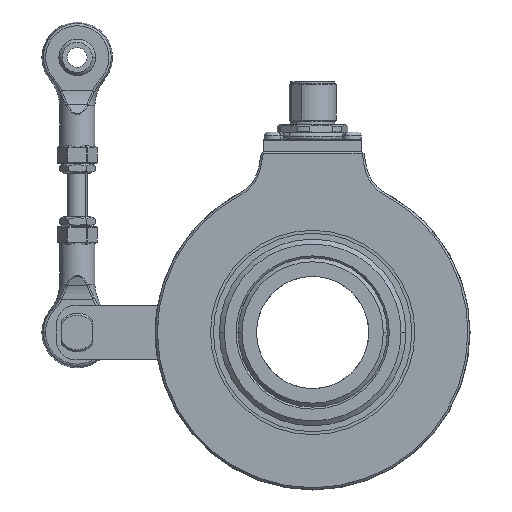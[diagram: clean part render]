
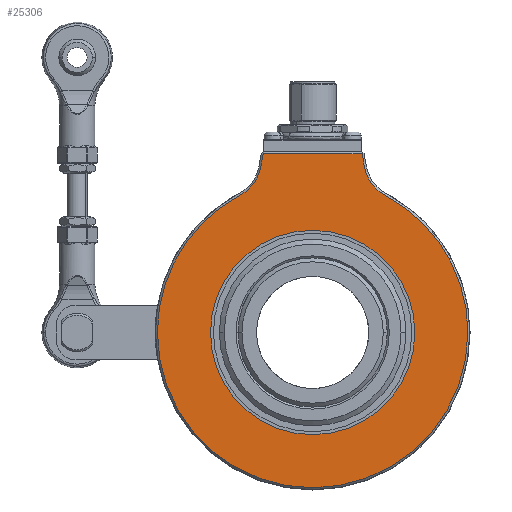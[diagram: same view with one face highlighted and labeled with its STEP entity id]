
A CAD part, left-side view. The second image highlights one B-rep face of the part: STEP entity #25306.
In plain terms, the highlighted planar face has unit normal (-1, 0, 0).
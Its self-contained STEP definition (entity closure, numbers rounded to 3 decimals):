
#452 = CARTESIAN_POINT ( 'NONE',  ( -26., 40., 0. ) ) ;
#1194 = EDGE_CURVE ( 'NONE', #26496, #15883, #10256, .T. ) ;
#1437 = DIRECTION ( 'NONE',  ( -1., 0., 0. ) ) ;
#1609 = CARTESIAN_POINT ( 'NONE',  ( -26., 0., 0. ) ) ;
#1617 = EDGE_CURVE ( 'NONE', #16590, #26496, #17439, .T. ) ;
#1793 = AXIS2_PLACEMENT_3D ( 'NONE', #1609, #18383, #16371 ) ;
#1962 = CARTESIAN_POINT ( 'NONE',  ( -26., 0., 0. ) ) ;
#2024 = CARTESIAN_POINT ( 'NONE',  ( -26., 18.551, 34.873 ) ) ;
#2308 = FACE_BOUND ( 'NONE', #27307, .T. ) ;
#2343 = VECTOR ( 'NONE', #23150, 1000. ) ;
#2352 = VECTOR ( 'NONE', #25866, 1000. ) ;
#2981 = CIRCLE ( 'NONE', #9774, 39.5 ) ;
#3370 = DIRECTION ( 'NONE',  ( -1., 0., 0. ) ) ;
#3516 = CIRCLE ( 'NONE', #23943, 10.5 ) ;
#3989 = AXIS2_PLACEMENT_3D ( 'NONE', #21849, #4639, #11161 ) ;
#4004 = CIRCLE ( 'NONE', #15317, 39.5 ) ;
#4298 = DIRECTION ( 'NONE',  ( 0., -1., 0. ) ) ;
#4573 = FACE_OUTER_BOUND ( 'NONE', #21080, .T. ) ;
#4639 = DIRECTION ( 'NONE',  ( 1., 0., 0. ) ) ;
#4712 = DIRECTION ( 'NONE',  ( 0., -1., 0. ) ) ;
#4755 = EDGE_CURVE ( 'NONE', #22082, #8321, #4004, .T. ) ;
#4899 = CIRCLE ( 'NONE', #3989, 10.5 ) ;
#5184 = EDGE_CURVE ( 'NONE', #27971, #16590, #9917, .T. ) ;
#5210 = CARTESIAN_POINT ( 'NONE',  ( -26., 26., 0. ) ) ;
#5431 = CARTESIAN_POINT ( 'NONE',  ( -26., 12.58, 45.5 ) ) ;
#5476 = VECTOR ( 'NONE', #14239, 1000. ) ;
#5763 = DIRECTION ( 'NONE',  ( 0., -1., 0. ) ) ;
#6536 = ORIENTED_EDGE ( 'NONE', *, *, #10069, .T. ) ;
#7590 = ORIENTED_EDGE ( 'NONE', *, *, #1617, .T. ) ;
#7808 = CARTESIAN_POINT ( 'NONE',  ( -26., -18.776, 10.364 ) ) ;
#7846 = CARTESIAN_POINT ( 'NONE',  ( -26., 0., 0. ) ) ;
#7913 = CARTESIAN_POINT ( 'NONE',  ( -26., 0., 0. ) ) ;
#8321 = VERTEX_POINT ( 'NONE', #15434 ) ;
#8446 = EDGE_CURVE ( 'NONE', #8321, #13081, #2981, .T. ) ;
#8843 = CARTESIAN_POINT ( 'NONE',  ( -26., -23.482, 44.143 ) ) ;
#9105 = AXIS2_PLACEMENT_3D ( 'NONE', #18417, #3370, #14282 ) ;
#9774 = AXIS2_PLACEMENT_3D ( 'NONE', #7913, #10291, #5763 ) ;
#9917 = LINE ( 'NONE', #7808, #2343 ) ;
#9968 = CARTESIAN_POINT ( 'NONE',  ( -26., 13.141, 42.32 ) ) ;
#10069 = EDGE_CURVE ( 'NONE', #23886, #27971, #3516, .T. ) ;
#10256 = LINE ( 'NONE', #12403, #5476 ) ;
#10291 = DIRECTION ( 'NONE',  ( -1., 0., 0. ) ) ;
#10371 = ORIENTED_EDGE ( 'NONE', *, *, #5184, .T. ) ;
#10651 = ORIENTED_EDGE ( 'NONE', *, *, #23050, .T. ) ;
#11161 = DIRECTION ( 'NONE',  ( 0., -1., 0. ) ) ;
#11259 = CARTESIAN_POINT ( 'NONE',  ( -26., -39.5, 0. ) ) ;
#12250 = ORIENTED_EDGE ( 'NONE', *, *, #4755, .T. ) ;
#12403 = CARTESIAN_POINT ( 'NONE',  ( -26., 21.188, -3.317 ) ) ;
#13081 = VERTEX_POINT ( 'NONE', #11259 ) ;
#13285 = AXIS2_PLACEMENT_3D ( 'NONE', #452, #19919, #4298 ) ;
#13691 = AXIS2_PLACEMENT_3D ( 'NONE', #1962, #19287, #14997 ) ;
#13760 = ORIENTED_EDGE ( 'NONE', *, *, #8446, .T. ) ;
#14239 = DIRECTION ( 'NONE',  ( 0., 0.174, -0.985 ) ) ;
#14282 = DIRECTION ( 'NONE',  ( 0., -1., 0. ) ) ;
#14997 = DIRECTION ( 'NONE',  ( 0., 1., 0. ) ) ;
#15198 = DIRECTION ( 'NONE',  ( 1., 0., 0. ) ) ;
#15317 = AXIS2_PLACEMENT_3D ( 'NONE', #7846, #1437, #16470 ) ;
#15434 = CARTESIAN_POINT ( 'NONE',  ( -26., 39.5, 0. ) ) ;
#15883 = VERTEX_POINT ( 'NONE', #9968 ) ;
#15991 = CARTESIAN_POINT ( 'NONE',  ( -26., -12.58, 45.5 ) ) ;
#16214 = ORIENTED_EDGE ( 'NONE', *, *, #1194, .T. ) ;
#16371 = DIRECTION ( 'NONE',  ( 0., 1., 0. ) ) ;
#16470 = DIRECTION ( 'NONE',  ( 0., -1., 0. ) ) ;
#16590 = VERTEX_POINT ( 'NONE', #15991 ) ;
#17158 = CARTESIAN_POINT ( 'NONE',  ( -26., 40., 45.5 ) ) ;
#17439 = LINE ( 'NONE', #17158, #2352 ) ;
#18383 = DIRECTION ( 'NONE',  ( 1., 0., 0. ) ) ;
#18417 = CARTESIAN_POINT ( 'NONE',  ( -26., 0., 0. ) ) ;
#19148 = CIRCLE ( 'NONE', #13691, 26. ) ;
#19224 = ORIENTED_EDGE ( 'NONE', *, *, #21863, .T. ) ;
#19287 = DIRECTION ( 'NONE',  ( 1., 0., 0. ) ) ;
#19919 = DIRECTION ( 'NONE',  ( -1., 0., 0. ) ) ;
#20405 = EDGE_CURVE ( 'NONE', #15883, #22082, #4899, .T. ) ;
#21080 = EDGE_LOOP ( 'NONE', ( #10371, #7590, #16214, #26106, #12250, #13760, #10651, #6536 ) ) ;
#21267 = CARTESIAN_POINT ( 'NONE',  ( -26., -18.551, 34.873 ) ) ;
#21849 = CARTESIAN_POINT ( 'NONE',  ( -26., 23.482, 44.143 ) ) ;
#21863 = EDGE_CURVE ( 'NONE', #23734, #23037, #26305, .T. ) ;
#22082 = VERTEX_POINT ( 'NONE', #2024 ) ;
#22753 = CIRCLE ( 'NONE', #9105, 39.5 ) ;
#23037 = VERTEX_POINT ( 'NONE', #5210 ) ;
#23050 = EDGE_CURVE ( 'NONE', #13081, #23886, #22753, .T. ) ;
#23150 = DIRECTION ( 'NONE',  ( 0., 0.174, 0.985 ) ) ;
#23734 = VERTEX_POINT ( 'NONE', #25462 ) ;
#23886 = VERTEX_POINT ( 'NONE', #21267 ) ;
#23943 = AXIS2_PLACEMENT_3D ( 'NONE', #8843, #15198, #4712 ) ;
#24288 = EDGE_CURVE ( 'NONE', #23037, #23734, #19148, .T. ) ;
#24353 = CARTESIAN_POINT ( 'NONE',  ( -26., -13.141, 42.32 ) ) ;
#24748 = ORIENTED_EDGE ( 'NONE', *, *, #24288, .T. ) ;
#25306 = ADVANCED_FACE ( 'NONE', ( #4573, #2308 ), #26063, .T. ) ;
#25462 = CARTESIAN_POINT ( 'NONE',  ( -26., -26., 0. ) ) ;
#25866 = DIRECTION ( 'NONE',  ( 0., 1., 0. ) ) ;
#26063 = PLANE ( 'NONE',  #13285 ) ;
#26106 = ORIENTED_EDGE ( 'NONE', *, *, #20405, .T. ) ;
#26305 = CIRCLE ( 'NONE', #1793, 26. ) ;
#26496 = VERTEX_POINT ( 'NONE', #5431 ) ;
#27307 = EDGE_LOOP ( 'NONE', ( #24748, #19224 ) ) ;
#27971 = VERTEX_POINT ( 'NONE', #24353 ) ;
